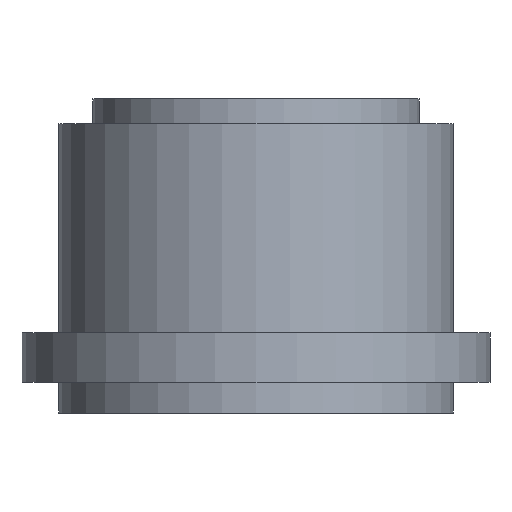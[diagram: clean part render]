
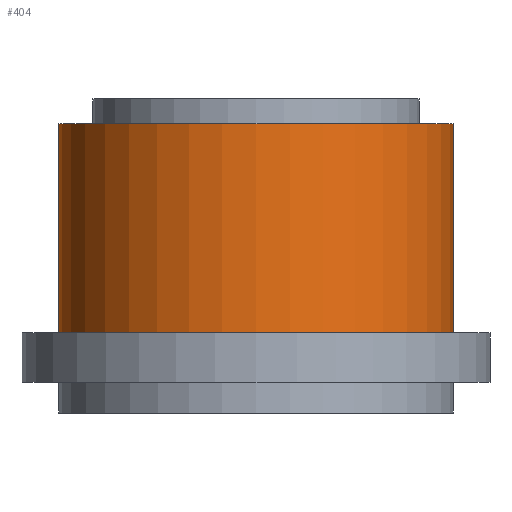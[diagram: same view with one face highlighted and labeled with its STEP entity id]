
A CAD part, front view. The second image highlights one B-rep face of the part: STEP entity #404.
In plain terms, the highlighted cylindrical face has radius 3.2 mm (diameter 6.4 mm), a full revolution.
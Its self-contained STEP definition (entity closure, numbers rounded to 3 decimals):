
#297 = PLANE('',#298);
#298 = AXIS2_PLACEMENT_3D('',#299,#300,#301);
#299 = CARTESIAN_POINT('',(0.,-27.5,9.8));
#300 = DIRECTION('',(0.,0.,1.));
#301 = DIRECTION('',(1.,0.,-0.));
#372 = EDGE_CURVE('',#373,#373,#375,.T.);
#373 = VERTEX_POINT('',#374);
#374 = CARTESIAN_POINT('',(3.2,-27.5,9.8));
#375 = SURFACE_CURVE('',#376,(#381,#392),.PCURVE_S1.);
#376 = CIRCLE('',#377,3.2);
#377 = AXIS2_PLACEMENT_3D('',#378,#379,#380);
#378 = CARTESIAN_POINT('',(0.,-27.5,9.8));
#379 = DIRECTION('',(0.,0.,-1.));
#380 = DIRECTION('',(1.,0.,0.));
#381 = PCURVE('',#297,#382);
#382 = DEFINITIONAL_REPRESENTATION('',(#383),#391);
#383 = ( BOUNDED_CURVE() B_SPLINE_CURVE(2,(#384,#385,#386,#387,#388,#389
,#390),.UNSPECIFIED.,.T.,.F.) B_SPLINE_CURVE_WITH_KNOTS((1,2,2,2,2,1),(
    -2.094,0.,2.094,4.189,6.283,
8.378),.UNSPECIFIED.) CURVE() GEOMETRIC_REPRESENTATION_ITEM() 
RATIONAL_B_SPLINE_CURVE((1.,0.5,1.,0.5,1.,0.5,1.)) REPRESENTATION_ITEM(
  '') );
#384 = CARTESIAN_POINT('',(3.2,0.));
#385 = CARTESIAN_POINT('',(3.2,-5.543));
#386 = CARTESIAN_POINT('',(-1.6,-2.771));
#387 = CARTESIAN_POINT('',(-6.4,0.));
#388 = CARTESIAN_POINT('',(-1.6,2.771));
#389 = CARTESIAN_POINT('',(3.2,5.543));
#390 = CARTESIAN_POINT('',(3.2,0.));
#391 = ( GEOMETRIC_REPRESENTATION_CONTEXT(2) 
PARAMETRIC_REPRESENTATION_CONTEXT() REPRESENTATION_CONTEXT('2D SPACE',''
  ) );
#392 = PCURVE('',#393,#398);
#393 = CYLINDRICAL_SURFACE('',#394,3.2);
#394 = AXIS2_PLACEMENT_3D('',#395,#396,#397);
#395 = CARTESIAN_POINT('',(0.,-27.5,8.5));
#396 = DIRECTION('',(-0.,-0.,-1.));
#397 = DIRECTION('',(1.,0.,0.));
#398 = DEFINITIONAL_REPRESENTATION('',(#399),#403);
#399 = LINE('',#400,#401);
#400 = CARTESIAN_POINT('',(-6.283,-1.3));
#401 = VECTOR('',#402,1.);
#402 = DIRECTION('',(1.,-0.));
#403 = ( GEOMETRIC_REPRESENTATION_CONTEXT(2) 
PARAMETRIC_REPRESENTATION_CONTEXT() REPRESENTATION_CONTEXT('2D SPACE',''
  ) );
#404 = ADVANCED_FACE('',(#405),#393,.T.);
#405 = FACE_BOUND('',#406,.F.);
#406 = EDGE_LOOP('',(#407,#408,#431,#458));
#407 = ORIENTED_EDGE('',*,*,#372,.T.);
#408 = ORIENTED_EDGE('',*,*,#409,.T.);
#409 = EDGE_CURVE('',#373,#410,#412,.T.);
#410 = VERTEX_POINT('',#411);
#411 = CARTESIAN_POINT('',(3.2,-27.5,13.2));
#412 = SEAM_CURVE('',#413,(#417,#424),.PCURVE_S1.);
#413 = LINE('',#414,#415);
#414 = CARTESIAN_POINT('',(3.2,-27.5,8.5));
#415 = VECTOR('',#416,1.);
#416 = DIRECTION('',(0.,0.,1.));
#417 = PCURVE('',#393,#418);
#418 = DEFINITIONAL_REPRESENTATION('',(#419),#423);
#419 = LINE('',#420,#421);
#420 = CARTESIAN_POINT('',(-6.283,0.));
#421 = VECTOR('',#422,1.);
#422 = DIRECTION('',(-0.,-1.));
#423 = ( GEOMETRIC_REPRESENTATION_CONTEXT(2) 
PARAMETRIC_REPRESENTATION_CONTEXT() REPRESENTATION_CONTEXT('2D SPACE',''
  ) );
#424 = PCURVE('',#393,#425);
#425 = DEFINITIONAL_REPRESENTATION('',(#426),#430);
#426 = LINE('',#427,#428);
#427 = CARTESIAN_POINT('',(-0.,0.));
#428 = VECTOR('',#429,1.);
#429 = DIRECTION('',(-0.,-1.));
#430 = ( GEOMETRIC_REPRESENTATION_CONTEXT(2) 
PARAMETRIC_REPRESENTATION_CONTEXT() REPRESENTATION_CONTEXT('2D SPACE',''
  ) );
#431 = ORIENTED_EDGE('',*,*,#432,.T.);
#432 = EDGE_CURVE('',#410,#410,#433,.T.);
#433 = SURFACE_CURVE('',#434,(#439,#446),.PCURVE_S1.);
#434 = CIRCLE('',#435,3.2);
#435 = AXIS2_PLACEMENT_3D('',#436,#437,#438);
#436 = CARTESIAN_POINT('',(0.,-27.5,13.2));
#437 = DIRECTION('',(0.,0.,1.));
#438 = DIRECTION('',(1.,0.,0.));
#439 = PCURVE('',#393,#440);
#440 = DEFINITIONAL_REPRESENTATION('',(#441),#445);
#441 = LINE('',#442,#443);
#442 = CARTESIAN_POINT('',(-0.,-4.7));
#443 = VECTOR('',#444,1.);
#444 = DIRECTION('',(-1.,0.));
#445 = ( GEOMETRIC_REPRESENTATION_CONTEXT(2) 
PARAMETRIC_REPRESENTATION_CONTEXT() REPRESENTATION_CONTEXT('2D SPACE',''
  ) );
#446 = PCURVE('',#447,#452);
#447 = PLANE('',#448);
#448 = AXIS2_PLACEMENT_3D('',#449,#450,#451);
#449 = CARTESIAN_POINT('',(0.,-27.5,13.2));
#450 = DIRECTION('',(0.,0.,1.));
#451 = DIRECTION('',(1.,0.,-0.));
#452 = DEFINITIONAL_REPRESENTATION('',(#453),#457);
#453 = CIRCLE('',#454,3.2);
#454 = AXIS2_PLACEMENT_2D('',#455,#456);
#455 = CARTESIAN_POINT('',(0.,0.));
#456 = DIRECTION('',(1.,0.));
#457 = ( GEOMETRIC_REPRESENTATION_CONTEXT(2) 
PARAMETRIC_REPRESENTATION_CONTEXT() REPRESENTATION_CONTEXT('2D SPACE',''
  ) );
#458 = ORIENTED_EDGE('',*,*,#409,.F.);
